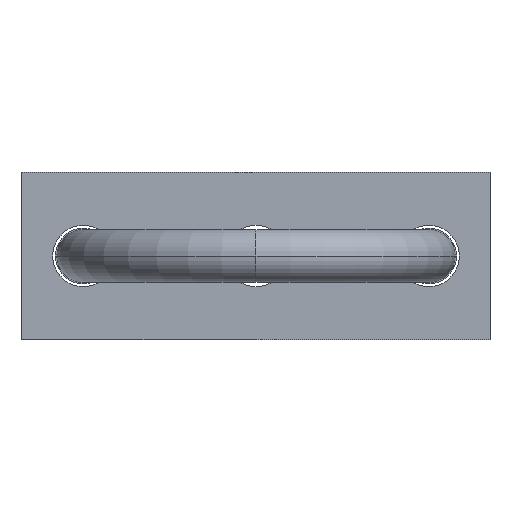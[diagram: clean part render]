
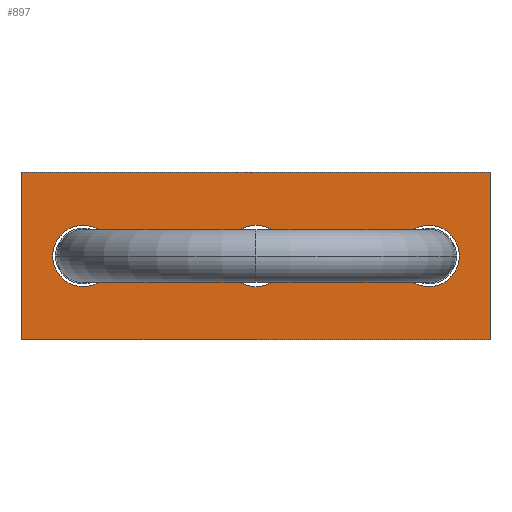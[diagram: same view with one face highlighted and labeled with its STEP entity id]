
A CAD part, front view. The second image highlights one B-rep face of the part: STEP entity #897.
In plain terms, the highlighted planar face has unit normal (0, -1, 0).
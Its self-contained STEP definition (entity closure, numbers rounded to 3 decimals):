
#602=CARTESIAN_POINT('',(0.,36.037,0.));
#603=DIRECTION('',(0.,1.,0.));
#604=DIRECTION('',(0.,0.,-1.));
#605=AXIS2_PLACEMENT_3D('',#602,#603,#604);
#610=CARTESIAN_POINT('',(0.,36.037,0.));
#611=DIRECTION('',(0.,1.,0.));
#612=DIRECTION('',(0.,0.,1.));
#613=AXIS2_PLACEMENT_3D('',#610,#611,#612);
#618=CARTESIAN_POINT('',(31.,36.037,0.));
#619=DIRECTION('',(0.,1.,0.));
#620=DIRECTION('',(0.,0.,-1.));
#621=AXIS2_PLACEMENT_3D('',#618,#619,#620);
#626=CARTESIAN_POINT('',(31.,36.037,0.));
#627=DIRECTION('',(0.,1.,0.));
#628=DIRECTION('',(0.,0.,1.));
#629=AXIS2_PLACEMENT_3D('',#626,#627,#628);
#634=DIRECTION('',(1.,0.,0.));
#635=VECTOR('',#634,84.);
#636=CARTESIAN_POINT('',(-42.,36.037,-15.));
#637=LINE('',#636,#635);
#641=DIRECTION('',(0.,0.,1.));
#642=VECTOR('',#641,30.);
#643=CARTESIAN_POINT('',(42.,36.037,-15.));
#644=LINE('',#643,#642);
#648=CARTESIAN_POINT('',(-31.,36.037,0.));
#649=DIRECTION('',(0.,1.,0.));
#650=DIRECTION('',(0.,0.,-1.));
#651=AXIS2_PLACEMENT_3D('',#648,#649,#650);
#656=CARTESIAN_POINT('',(-31.,36.037,0.));
#657=DIRECTION('',(0.,1.,0.));
#658=DIRECTION('',(0.,0.,1.));
#659=AXIS2_PLACEMENT_3D('',#656,#657,#658);
#768=DIRECTION('',(1.,0.,0.));
#769=VECTOR('',#768,84.);
#770=CARTESIAN_POINT('',(-42.,36.037,15.));
#771=LINE('',#770,#769);
#803=DIRECTION('',(0.,0.,1.));
#804=VECTOR('',#803,30.);
#805=CARTESIAN_POINT('',(-42.,36.037,-15.));
#806=LINE('',#805,#804);
#824=CARTESIAN_POINT('',(-42.,36.037,-15.));
#825=CARTESIAN_POINT('',(42.,36.037,-15.));
#826=VERTEX_POINT('',#824);
#827=VERTEX_POINT('',#825);
#828=CARTESIAN_POINT('',(42.,36.037,15.));
#829=VERTEX_POINT('',#828);
#830=CARTESIAN_POINT('',(-42.,36.037,15.));
#831=VERTEX_POINT('',#830);
#841=CARTESIAN_POINT('',(31.,36.037,-5.5));
#843=VERTEX_POINT('',#841);
#845=CARTESIAN_POINT('',(31.,36.037,5.5));
#847=VERTEX_POINT('',#845);
#849=CARTESIAN_POINT('',(0.,36.037,-5.5));
#851=VERTEX_POINT('',#849);
#853=CARTESIAN_POINT('',(0.,36.037,5.5));
#855=VERTEX_POINT('',#853);
#857=CARTESIAN_POINT('',(-31.,36.037,-5.5));
#859=VERTEX_POINT('',#857);
#861=CARTESIAN_POINT('',(-31.,36.037,5.5));
#863=VERTEX_POINT('',#861);
#864=CARTESIAN_POINT('',(42.,36.037,15.));
#865=DIRECTION('',(0.,-1.,0.));
#866=DIRECTION('',(0.,0.,-1.));
#867=AXIS2_PLACEMENT_3D('',#864,#865,#866);
#868=PLANE('',#867);
#870=ORIENTED_EDGE('',*,*,#869,.F.);
#872=ORIENTED_EDGE('',*,*,#871,.T.);
#874=ORIENTED_EDGE('',*,*,#873,.T.);
#876=ORIENTED_EDGE('',*,*,#875,.F.);
#877=EDGE_LOOP('',(#870,#872,#874,#876));
#878=FACE_OUTER_BOUND('',#877,.F.);
#880=ORIENTED_EDGE('',*,*,#879,.F.);
#882=ORIENTED_EDGE('',*,*,#881,.F.);
#883=EDGE_LOOP('',(#880,#882));
#884=FACE_BOUND('',#883,.F.);
#886=ORIENTED_EDGE('',*,*,#885,.F.);
#888=ORIENTED_EDGE('',*,*,#887,.F.);
#889=EDGE_LOOP('',(#886,#888));
#890=FACE_BOUND('',#889,.F.);
#892=ORIENTED_EDGE('',*,*,#891,.F.);
#894=ORIENTED_EDGE('',*,*,#893,.F.);
#895=EDGE_LOOP('',(#892,#894));
#896=FACE_BOUND('',#895,.F.);
#606=CIRCLE('',#605,5.5);
#614=CIRCLE('',#613,5.5);
#622=CIRCLE('',#621,5.5);
#630=CIRCLE('',#629,5.5);
#652=CIRCLE('',#651,5.5);
#660=CIRCLE('',#659,5.5);
#869=EDGE_CURVE('',#826,#827,#637,.T.);
#871=EDGE_CURVE('',#826,#831,#806,.T.);
#873=EDGE_CURVE('',#831,#829,#771,.T.);
#875=EDGE_CURVE('',#827,#829,#644,.T.);
#879=EDGE_CURVE('',#843,#847,#622,.T.);
#881=EDGE_CURVE('',#847,#843,#630,.T.);
#885=EDGE_CURVE('',#851,#855,#606,.T.);
#887=EDGE_CURVE('',#855,#851,#614,.T.);
#891=EDGE_CURVE('',#859,#863,#652,.T.);
#893=EDGE_CURVE('',#863,#859,#660,.T.);
#897=ADVANCED_FACE('',(#878,#884,#890,#896),#868,.T.);
